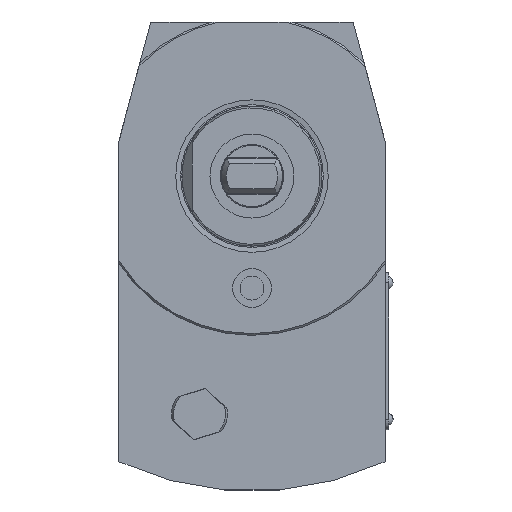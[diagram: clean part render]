
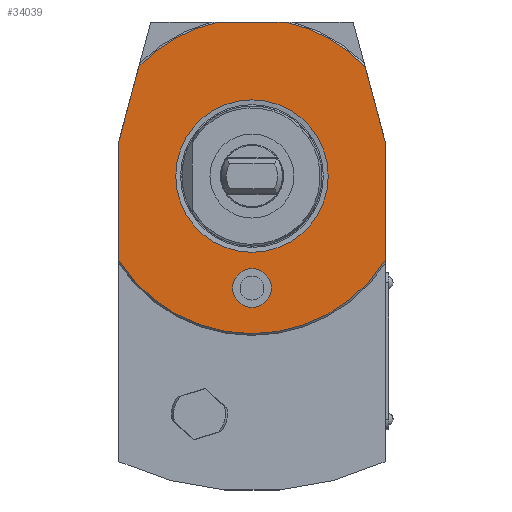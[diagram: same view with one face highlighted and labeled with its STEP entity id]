
A CAD part, left-side view. The second image highlights one B-rep face of the part: STEP entity #34039.
In plain terms, the highlighted planar face has unit normal (-1, 0, 0) as drawn and (0, 1, 0) by its records, which use the part's own axes.
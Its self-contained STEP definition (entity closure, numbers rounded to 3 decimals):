
#1172=VECTOR('',#18291,1.);
#1179=VECTOR('',#18302,1.);
#1180=VECTOR('',#18303,1.);
#1181=VECTOR('',#18306,1.);
#1182=VECTOR('',#18309,1.);
#1985=LINE('',#30194,#1172);
#1992=LINE('',#30211,#1179);
#1993=LINE('',#30213,#1180);
#1994=LINE('',#30216,#1181);
#1995=LINE('',#30220,#1182);
#2468=PLANE('',#32785);
#7210=ORIENTED_EDGE('',*,*,#11882,.F.);
#7211=ORIENTED_EDGE('',*,*,#11883,.F.);
#7212=ORIENTED_EDGE('',*,*,#11884,.F.);
#7213=ORIENTED_EDGE('',*,*,#11874,.F.);
#7214=ORIENTED_EDGE('',*,*,#11885,.F.);
#7215=ORIENTED_EDGE('',*,*,#11886,.F.);
#7216=ORIENTED_EDGE('',*,*,#11887,.F.);
#7217=ORIENTED_EDGE('',*,*,#11888,.F.);
#7218=ORIENTED_EDGE('',*,*,#11889,.T.);
#7219=ORIENTED_EDGE('',*,*,#11890,.T.);
#8250=CIRCLE('',#32786,45.);
#8251=CIRCLE('',#32787,45.);
#8252=CIRCLE('',#32788,45.);
#8253=CIRCLE('',#32789,5.55);
#8254=CIRCLE('',#32790,21.765);
#9674=VERTEX_POINT('',#30192);
#9675=VERTEX_POINT('',#30193);
#9682=VERTEX_POINT('',#30209);
#9683=VERTEX_POINT('',#30210);
#9684=VERTEX_POINT('',#30212);
#9685=VERTEX_POINT('',#30215);
#9686=VERTEX_POINT('',#30217);
#9687=VERTEX_POINT('',#30219);
#9688=VERTEX_POINT('',#30222);
#9689=VERTEX_POINT('',#30224);
#11874=EDGE_CURVE('',#9674,#9675,#1985,.T.);
#11882=EDGE_CURVE('',#9682,#9683,#1992,.T.);
#11883=EDGE_CURVE('',#9684,#9682,#1993,.T.);
#11884=EDGE_CURVE('',#9675,#9684,#8250,.T.);
#11885=EDGE_CURVE('',#9685,#9674,#1994,.T.);
#11886=EDGE_CURVE('',#9686,#9685,#8251,.T.);
#11887=EDGE_CURVE('',#9687,#9686,#1995,.T.);
#11888=EDGE_CURVE('',#9683,#9687,#8252,.T.);
#11889=EDGE_CURVE('',#9688,#9688,#8253,.T.);
#11890=EDGE_CURVE('',#9689,#9689,#8254,.T.);
#12977=EDGE_LOOP('',(#7210,#7211,#7212,#7213,#7214,#7215,#7216,#7217));
#12978=EDGE_LOOP('',(#7218));
#12979=EDGE_LOOP('',(#7219));
#13997=FACE_BOUND('',#12977,.T.);
#13998=FACE_BOUND('',#12978,.T.);
#13999=FACE_BOUND('',#12979,.T.);
#18291=DIRECTION('',(-34.104,0.,0.));
#18300=DIRECTION('',(0.,1.,0.));
#18301=DIRECTION('',(1.,0.,0.));
#18302=DIRECTION('',(21.355,0.,5.722));
#18303=DIRECTION('',(34.104,0.,0.));
#18304=DIRECTION('',(0.,-1.,0.));
#18305=DIRECTION('',(35.552,0.,27.587));
#18306=DIRECTION('',(-21.355,0.,5.722));
#18307=DIRECTION('',(0.,-1.,0.));
#18308=DIRECTION('',(36.181,0.,-26.757));
#18309=DIRECTION('',(0.,0.,18.868));
#18310=DIRECTION('',(0.,-1.,0.));
#18311=DIRECTION('',(35.552,0.,27.587));
#18312=DIRECTION('',(0.,-1.,0.));
#18313=DIRECTION('',(0.,0.,5.55));
#18314=DIRECTION('',(0.,-1.,0.));
#18315=DIRECTION('',(0.,0.,21.765));
#30192=CARTESIAN_POINT('',(10.,0.,38.));
#30193=CARTESIAN_POINT('',(-24.104,0.,38.));
#30194=CARTESIAN_POINT('',(10.,0.,38.));
#30208=CARTESIAN_POINT('',(0.,0.,21.765));
#30209=CARTESIAN_POINT('',(10.,0.,-38.));
#30210=CARTESIAN_POINT('',(31.355,0.,-32.278));
#30211=CARTESIAN_POINT('',(10.,0.,-38.));
#30212=CARTESIAN_POINT('',(-24.104,0.,-38.));
#30213=CARTESIAN_POINT('',(-24.104,0.,-38.));
#30214=CARTESIAN_POINT('',(0.,0.,0.));
#30215=CARTESIAN_POINT('',(31.355,0.,32.278));
#30216=CARTESIAN_POINT('',(31.355,0.,32.278));
#30217=CARTESIAN_POINT('',(44.,0.,9.434));
#30218=CARTESIAN_POINT('',(0.,0.,0.));
#30219=CARTESIAN_POINT('',(44.,0.,-9.434));
#30220=CARTESIAN_POINT('',(44.,0.,-9.434));
#30221=CARTESIAN_POINT('',(0.,0.,0.));
#30222=CARTESIAN_POINT('',(-32.,0.,5.55));
#30223=CARTESIAN_POINT('',(-32.,0.,0.));
#30224=CARTESIAN_POINT('',(0.,0.,21.765));
#30225=CARTESIAN_POINT('',(0.,0.,0.));
#32785=AXIS2_PLACEMENT_3D('',#30208,#18300,#18301);
#32786=AXIS2_PLACEMENT_3D('',#30214,#18304,#18305);
#32787=AXIS2_PLACEMENT_3D('',#30218,#18307,#18308);
#32788=AXIS2_PLACEMENT_3D('',#30221,#18310,#18311);
#32789=AXIS2_PLACEMENT_3D('',#30223,#18312,#18313);
#32790=AXIS2_PLACEMENT_3D('',#30225,#18314,#18315);
#34039=ADVANCED_FACE('',(#13997,#13998,#13999),#2468,.T.);
